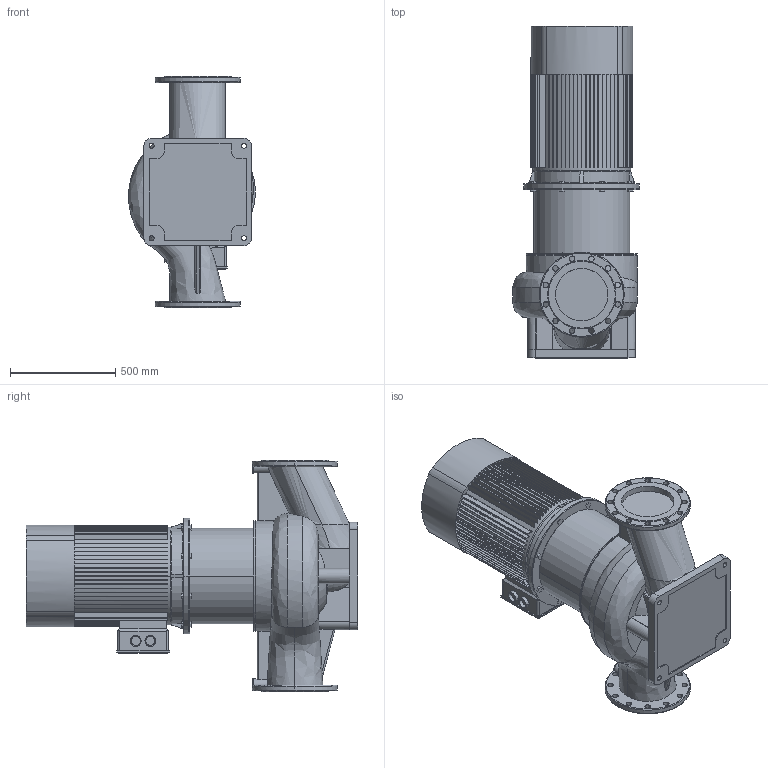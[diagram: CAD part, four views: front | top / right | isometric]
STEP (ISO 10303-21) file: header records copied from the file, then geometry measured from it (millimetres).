
FILE_DESCRIPTION (( 'STEP AP203' ), '1' );
FILE_NAME ('TD250-29_4.STEP', '2022-05-02T18:05:56', ( '' ), ( '' ), 'SwSTEP 2.0', 'SolidWorks 2019', '' );
FILE_SCHEMA (( 'CONFIG_CONTROL_DESIGN' ));
Length unit declared in the file: millimetre
Products named in the file (4): Fon_250_TD250-29_4; TD250-29_4; ED_B5_YE2-250M-4 (55); Pr_ch 250_TD250-29_4
Assembly tree (3 placements, depth 2):
  TD250-29_4
    Pr_ch 250_TD250-29_4
    Fon_250_TD250-29_4
    ED_B5_YE2-250M-4 (55)
Bounding box: 604.68 x 1580 x 1100 mm (x, y, z)
Volume: 282312314 mm3; surface area: 6706113.4 mm2
Topology: 13 solids, 15 shells, 826 faces, 2247 edges, 1490 vertices
Faces by surface type: plane 567, cylinder 188, torus 34, bspline 20, cone 17
Entity records: 35430 total; most frequent: CARTESIAN_POINT 13657, ORIENTED_EDGE 4494, DIRECTION 4440, EDGE_CURVE 2247, AXIS2_PLACEMENT_3D 1528, VERTEX_POINT 1490, LINE 1384, VECTOR 1384
